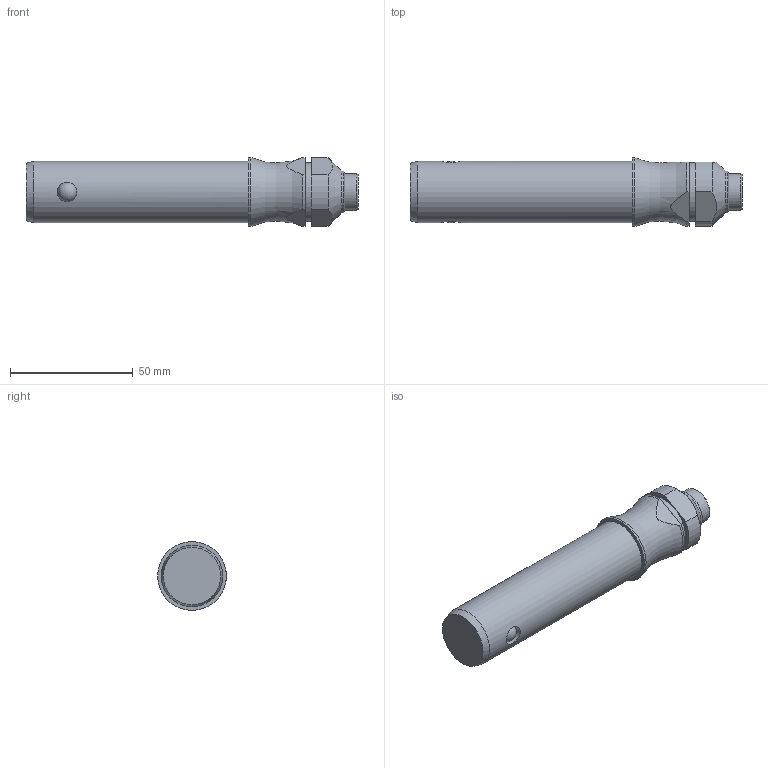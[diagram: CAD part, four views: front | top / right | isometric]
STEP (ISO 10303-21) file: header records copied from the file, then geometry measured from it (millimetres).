
FILE_DESCRIPTION( ( 'STEP AP203' ), '1' );
FILE_NAME( 'C:/Temp/Ganter_Step_05_03_2020/data/3_1/gn113_3/Stainless Steel-Ball lock pin GN 113.3-25-70 (activated).stp', '2020-03-12T08:19:10', ( 'License CC BY-ND 4.0' ), ( 'CADENAS' ), ' ', 'PARTsolutions', ' ' );
FILE_SCHEMA( ( 'CONFIG_CONTROL_DESIGN' ) );
Length unit declared in the file: millimetre
Products named in the file (1): _Stainless Steel-Ball lock pin GN 113.3-25-70 (activated)
Bounding box: 135.05 x 28 x 28 mm (x, y, z)
Volume: 64025.8 mm3; surface area: 11851.8 mm2
Topology: 1 solids, 1 shells, 31 faces, 76 edges, 47 vertices
Faces by surface type: cylinder 13, plane 11, cone 4, sphere 2, torus 1
Full cylindrical faces by diameter (mm): 8 x2, 15 x1, 17 x1, 24 x1, 25 x1, 28 x1
Entity records: 1046 total; most frequent: CARTESIAN_POINT 382, DIRECTION 134, ORIENTED_EDGE 104, AXIS2_PLACEMENT_3D 58, EDGE_CURVE 52, EDGE_LOOP 48, VERTEX_POINT 40, FACE_OUTER_BOUND 39
